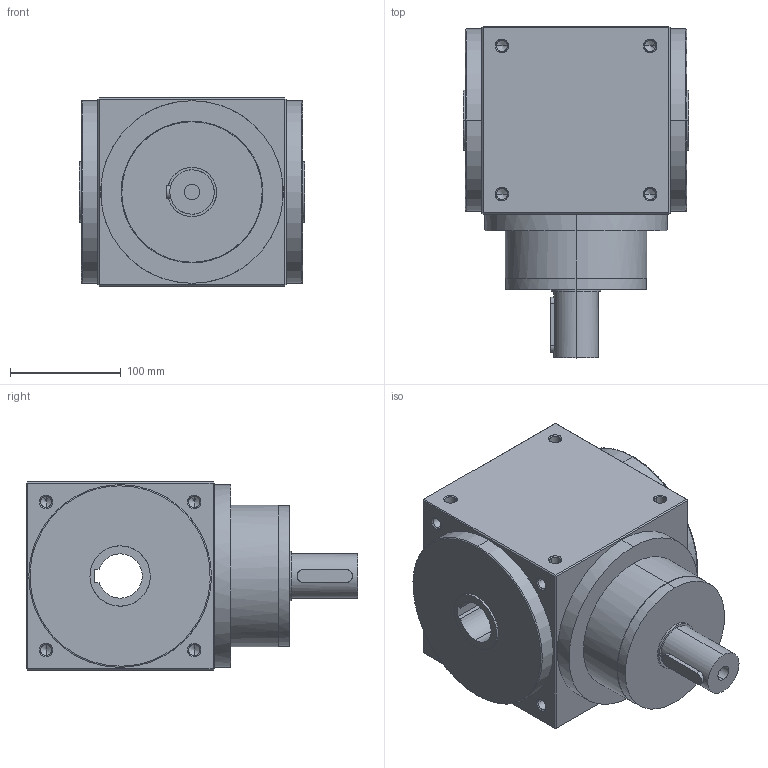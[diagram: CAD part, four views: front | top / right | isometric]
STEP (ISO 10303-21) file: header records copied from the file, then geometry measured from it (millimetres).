
FILE_DESCRIPTION (( 'STEP AP214' ), '1' );
FILE_NAME ('AT170-FC-L1-24-130-165-m10_1.STEP', '2020-11-13T09:33:01', ( '微软用户' ), ( '微软中国' ), 'SwSTEP 2.0', 'SolidWorks 2014', '' );
FILE_SCHEMA (( 'AUTOMOTIVE_DESIGN' ));
Length unit declared in the file: millimetre
Products named in the file (2): AT170-FC-L1-24-130-165-m10_1
Bounding box: 204 x 300 x 170 mm (x, y, z)
Volume: 6333556.4 mm3; surface area: 265104 mm2
Topology: 1 solids, 1 shells, 231 faces, 590 edges, 328 vertices
Faces by surface type: cylinder 105, cone 80, plane 42, bspline 4
Entity records: 14034 total; most frequent: CARTESIAN_POINT 6359, ORIENTED_EDGE 1100, DIRECTION 994, EDGE_CURVE 550, AXIS2_PLACEMENT_3D 373, VERTEX_POINT 328, EDGE_LOOP 264, VECTOR 248
